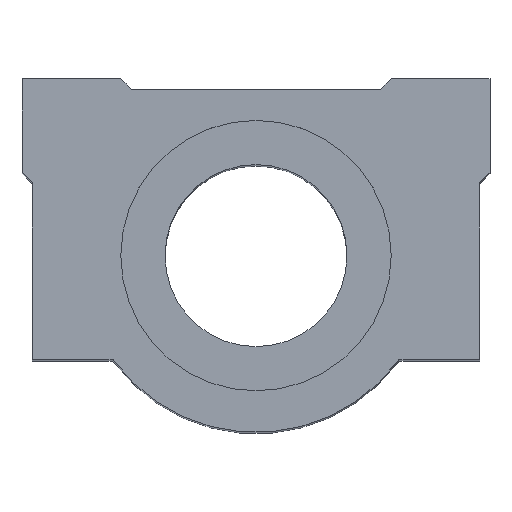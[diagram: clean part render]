
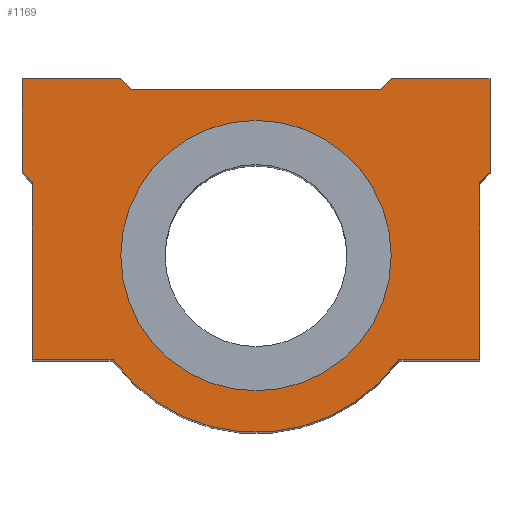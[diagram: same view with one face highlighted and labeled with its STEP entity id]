
A CAD part, top view. The second image highlights one B-rep face of the part: STEP entity #1169.
In plain terms, the highlighted planar face has unit normal (0, 0, 1).
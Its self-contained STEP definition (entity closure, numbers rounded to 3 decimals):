
#91=CARTESIAN_POINT('',(-26.709,4.198,158.0));
#92=VERTEX_POINT('',#91);
#101=CARTESIAN_POINT('',(25.291,4.198,158.0));
#102=VERTEX_POINT('',#101);
#103=CARTESIAN_POINT('',(-0.709,4.198,158.));
#104=DIRECTION('',(0.0,0.0,-1.0));
#105=DIRECTION('',(-1.0,0.0,0.0));
#106=AXIS2_PLACEMENT_3D('',#103,#104,#105);
#107=CIRCLE('',#106,26.0);
#108=EDGE_CURVE('',#102,#92,#107,.T.);
#640=CARTESIAN_POINT('',(-0.709,4.198,158.));
#641=DIRECTION('',(0.0,0.0,-1.0));
#642=DIRECTION('',(-1.0,0.0,0.0));
#643=AXIS2_PLACEMENT_3D('',#640,#641,#642);
#644=CIRCLE('',#643,26.0);
#645=EDGE_CURVE('',#92,#102,#644,.T.);
#780=CARTESIAN_POINT('',(44.291,20.198,158.));
#781=VERTEX_POINT('',#780);
#782=CARTESIAN_POINT('',(42.291,18.198,158.));
#783=VERTEX_POINT('',#782);
#784=CARTESIAN_POINT('',(44.291,20.198,158.));
#785=DIRECTION('',(-0.707,-0.707,0.0));
#786=VECTOR('',#785,2.828);
#787=LINE('',#784,#786);
#788=EDGE_CURVE('',#781,#783,#787,.T.);
#811=CARTESIAN_POINT('',(42.291,-15.802,158.));
#812=VERTEX_POINT('',#811);
#813=CARTESIAN_POINT('',(42.291,18.198,158.));
#814=DIRECTION('',(0.0,-1.0,0.0));
#815=VECTOR('',#814,34.);
#816=LINE('',#813,#815);
#817=EDGE_CURVE('',#783,#812,#816,.T.);
#835=CARTESIAN_POINT('',(26.787,-15.802,158.));
#836=VERTEX_POINT('',#835);
#837=CARTESIAN_POINT('',(42.291,-15.802,158.));
#838=DIRECTION('',(-1.0,0.0,0.0));
#839=VECTOR('',#838,15.505);
#840=LINE('',#837,#839);
#841=EDGE_CURVE('',#812,#836,#840,.T.);
#867=CARTESIAN_POINT('',(-28.204,-15.802,158.));
#868=VERTEX_POINT('',#867);
#869=CARTESIAN_POINT('',(-0.709,4.198,158.0));
#870=DIRECTION('',(0.0,0.0,-1.));
#871=DIRECTION('',(0.809,0.588,0.0));
#872=AXIS2_PLACEMENT_3D('',#869,#870,#871);
#873=CIRCLE('',#872,34.0);
#874=EDGE_CURVE('',#836,#868,#873,.T.);
#892=CARTESIAN_POINT('',(-43.709,-15.802,158.));
#893=VERTEX_POINT('',#892);
#894=CARTESIAN_POINT('',(-28.204,-15.802,158.));
#895=DIRECTION('',(-1.0,0.0,0.0));
#896=VECTOR('',#895,15.505);
#897=LINE('',#894,#896);
#898=EDGE_CURVE('',#868,#893,#897,.T.);
#924=CARTESIAN_POINT('',(-43.709,18.198,158.));
#925=VERTEX_POINT('',#924);
#926=CARTESIAN_POINT('',(-43.709,-15.802,158.));
#927=DIRECTION('',(0.0,1.0,0.0));
#928=VECTOR('',#927,34.);
#929=LINE('',#926,#928);
#930=EDGE_CURVE('',#893,#925,#929,.T.);
#948=CARTESIAN_POINT('',(-45.709,20.198,158.));
#949=VERTEX_POINT('',#948);
#950=CARTESIAN_POINT('',(-43.709,18.198,158.));
#951=DIRECTION('',(-0.707,0.707,0.0));
#952=VECTOR('',#951,2.828);
#953=LINE('',#950,#952);
#954=EDGE_CURVE('',#925,#949,#953,.T.);
#972=CARTESIAN_POINT('',(-45.709,38.198,158.));
#973=VERTEX_POINT('',#972);
#974=CARTESIAN_POINT('',(-45.709,20.198,158.));
#975=DIRECTION('',(0.0,1.0,0.0));
#976=VECTOR('',#975,18.);
#977=LINE('',#974,#976);
#978=EDGE_CURVE('',#949,#973,#977,.T.);
#996=CARTESIAN_POINT('',(-26.709,38.198,158.));
#997=VERTEX_POINT('',#996);
#998=CARTESIAN_POINT('',(-45.709,38.198,158.));
#999=DIRECTION('',(1.0,0.0,0.0));
#1000=VECTOR('',#999,19.);
#1001=LINE('',#998,#1000);
#1002=EDGE_CURVE('',#973,#997,#1001,.T.);
#1028=CARTESIAN_POINT('',(-24.709,36.198,158.));
#1029=VERTEX_POINT('',#1028);
#1030=CARTESIAN_POINT('',(-26.709,38.198,158.));
#1031=DIRECTION('',(0.707,-0.707,0.0));
#1032=VECTOR('',#1031,2.828);
#1033=LINE('',#1030,#1032);
#1034=EDGE_CURVE('',#997,#1029,#1033,.T.);
#1052=CARTESIAN_POINT('',(23.291,36.198,158.));
#1053=VERTEX_POINT('',#1052);
#1054=CARTESIAN_POINT('',(-24.709,36.198,158.));
#1055=DIRECTION('',(1.0,0.0,0.0));
#1056=VECTOR('',#1055,48.);
#1057=LINE('',#1054,#1056);
#1058=EDGE_CURVE('',#1029,#1053,#1057,.T.);
#1076=CARTESIAN_POINT('',(25.291,38.198,158.));
#1077=VERTEX_POINT('',#1076);
#1078=CARTESIAN_POINT('',(23.291,36.198,158.));
#1079=DIRECTION('',(0.707,0.707,0.0));
#1080=VECTOR('',#1079,2.828);
#1081=LINE('',#1078,#1080);
#1082=EDGE_CURVE('',#1053,#1077,#1081,.T.);
#1100=CARTESIAN_POINT('',(44.291,38.198,158.));
#1101=VERTEX_POINT('',#1100);
#1102=CARTESIAN_POINT('',(25.291,38.198,158.));
#1103=DIRECTION('',(1.0,0.0,0.0));
#1104=VECTOR('',#1103,19.);
#1105=LINE('',#1102,#1104);
#1106=EDGE_CURVE('',#1077,#1101,#1105,.T.);
#1132=CARTESIAN_POINT('',(44.291,38.198,158.));
#1133=DIRECTION('',(0.0,-1.0,0.0));
#1134=VECTOR('',#1133,18.);
#1135=LINE('',#1132,#1134);
#1136=EDGE_CURVE('',#1101,#781,#1135,.T.);
#1144=CARTESIAN_POINT('',(-0.709,8.801,158.));
#1145=DIRECTION('',(0.0,0.0,1.0));
#1146=DIRECTION('',(1.0,0.0,0.0));
#1147=AXIS2_PLACEMENT_3D('',#1144,#1145,#1146);
#1148=PLANE('',#1147);
#1149=ORIENTED_EDGE('',*,*,#788,.F.);
#1150=ORIENTED_EDGE('',*,*,#1136,.F.);
#1151=ORIENTED_EDGE('',*,*,#1106,.F.);
#1152=ORIENTED_EDGE('',*,*,#1082,.F.);
#1153=ORIENTED_EDGE('',*,*,#1058,.F.);
#1154=ORIENTED_EDGE('',*,*,#1034,.F.);
#1155=ORIENTED_EDGE('',*,*,#1002,.F.);
#1156=ORIENTED_EDGE('',*,*,#978,.F.);
#1157=ORIENTED_EDGE('',*,*,#954,.F.);
#1158=ORIENTED_EDGE('',*,*,#930,.F.);
#1159=ORIENTED_EDGE('',*,*,#898,.F.);
#1160=ORIENTED_EDGE('',*,*,#874,.F.);
#1161=ORIENTED_EDGE('',*,*,#841,.F.);
#1162=ORIENTED_EDGE('',*,*,#817,.F.);
#1163=EDGE_LOOP('',(#1149,#1150,#1151,#1152,#1153,#1154,#1155,#1156,#1157,#1158,#1159,#1160,#1161,#1162));
#1164=FACE_OUTER_BOUND('',#1163,.T.);
#1165=ORIENTED_EDGE('',*,*,#108,.T.);
#1166=ORIENTED_EDGE('',*,*,#645,.T.);
#1167=EDGE_LOOP('',(#1165,#1166));
#1168=FACE_BOUND('',#1167,.T.);
#1169=ADVANCED_FACE('',(#1164,#1168),#1148,.T.);
